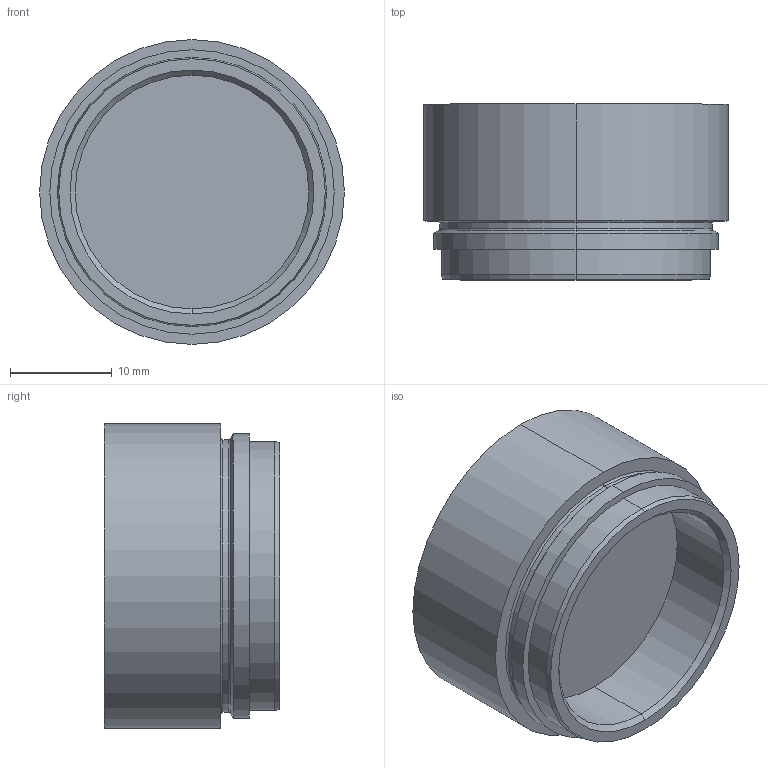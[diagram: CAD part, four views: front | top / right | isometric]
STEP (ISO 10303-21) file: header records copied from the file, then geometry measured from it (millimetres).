
FILE_DESCRIPTION (( 'STEP AP214' ), '1' );
FILE_NAME ('asphericon_beamtuning_AiryShape_neu.STEP', '2019-09-10T12:31:41', ( '' ), ( '' ), 'SwSTEP 2.0', 'SolidWorks 2019', '' );
FILE_SCHEMA (( 'AUTOMOTIVE_DESIGN' ));
Length unit declared in the file: millimetre
Products named in the file (2): asphericon_beamtuning_AiryShape_neu
Bounding box: 30 x 17.3 x 30 mm (x, y, z)
Volume: 3796.9 mm3; surface area: 4297.2 mm2
Topology: 1 solids, 1 shells, 43 faces, 86 edges, 49 vertices
Faces by surface type: cylinder 16, cone 10, torus 8, plane 7, bspline 2
Entity records: 1179 total; most frequent: DIRECTION 224, CARTESIAN_POINT 214, ORIENTED_EDGE 168, AXIS2_PLACEMENT_3D 99, EDGE_CURVE 84, CIRCLE 56, VERTEX_POINT 49, EDGE_LOOP 49
